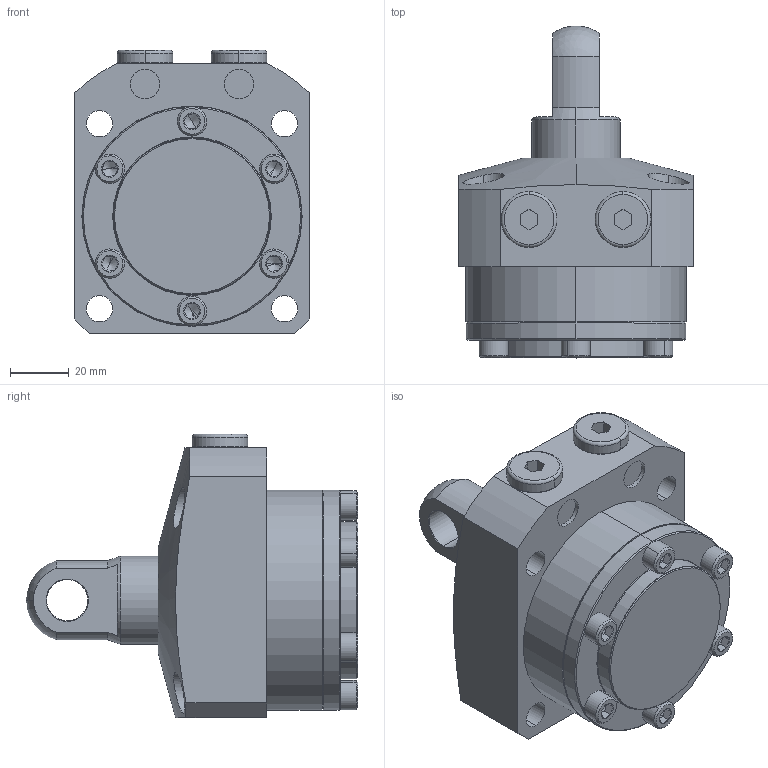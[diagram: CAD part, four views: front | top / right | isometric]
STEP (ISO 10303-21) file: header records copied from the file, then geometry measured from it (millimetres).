
FILE_DESCRIPTION (( 'STEP AP203' ), '1' );
FILE_NAME ('680750-CP-015.step', '2016-11-02T03:27:36', ( 'wxp' ), ( '' ), 'SwSTEP 2.0', 'SolidWorks 2011', '' );
FILE_SCHEMA (( 'CONFIG_CONTROL_DESIGN' ));
Length unit declared in the file: millimetre
Products named in the file (6): 680750-CP-015; 680750-CA-15-14^680750-CP-015; 68075-CA-15-5^680750-CP-015; 68075-CA-15-4^680750-CP-015; 68075-CA-15-3^680750-CP-015; 68075-CA-15-1^680750-CP-015
Assembly tree (11 placements, depth 2):
  680750-CP-015
    680750-CA-15-14^680750-CP-015
    68075-CA-15-5^680750-CP-015  x2
    68075-CA-15-4^680750-CP-015  x6
    68075-CA-15-1^680750-CP-015
    68075-CA-15-3^680750-CP-015
Bounding box: 80 x 113 x 96.5 mm (x, y, z)
Volume: 363001.3 mm3; surface area: 58367.2 mm2
Topology: 11 solids, 11 shells, 342 faces, 672 edges, 368 vertices
Faces by surface type: plane 137, cone 96, cylinder 91, torus 16, sphere 2
Entity records: 5665 total; most frequent: CARTESIAN_POINT 1210, DIRECTION 853, ORIENTED_EDGE 692, AXIS2_PLACEMENT_3D 358, EDGE_CURVE 346, VERTEX_POINT 211, EDGE_LOOP 199, CIRCLE 183
